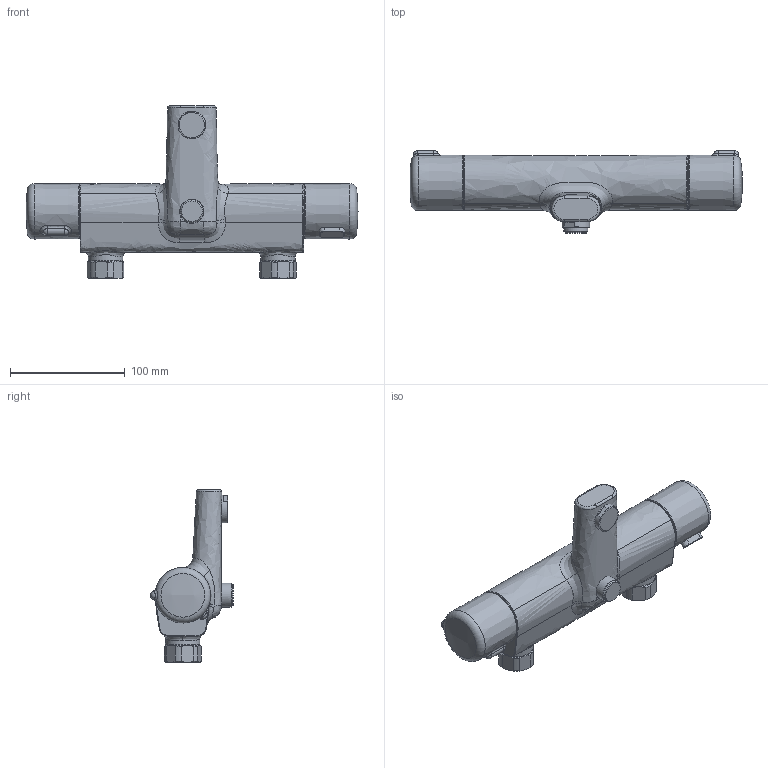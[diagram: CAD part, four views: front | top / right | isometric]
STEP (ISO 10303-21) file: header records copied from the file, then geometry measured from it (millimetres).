
FILE_DESCRIPTION (( 'STEP AP203' ), '1' );
FILE_NAME ('7462(2016)+7462G(2016)+58162071(2016).STEP', '2018-01-15T10:52:35', ( '' ), ( '' ), 'SwSTEP 2.0', 'SolidWorks 2016', '' );
FILE_SCHEMA (( 'CONFIG_CONTROL_DESIGN' ));
Length unit declared in the file: millimetre
Products named in the file (1): 7462(2016)+7462G(2016)+58162071(2016)
Bounding box: 288.86 x 71.99 x 150.5 mm (x, y, z)
Volume: 1045257.9 mm3; surface area: 103345.6 mm2
Topology: 2 solids, 2 shells, 170 faces, 421 edges, 270 vertices
Faces by surface type: bspline 53, plane 42, cone 33, cylinder 28, sphere 8, torus 6
Full cylindrical faces by diameter (mm): 18 x1, 21 x1, 24 x2, 24.1 x1, 26 x2, 30 x2, 43.029 x1
Entity records: 13210 total; most frequent: CARTESIAN_POINT 9821, ORIENTED_EDGE 740, DIRECTION 556, EDGE_CURVE 370, AXIS2_PLACEMENT_3D 248, VERTEX_POINT 247, EDGE_LOOP 211, FACE_OUTER_BOUND 188
